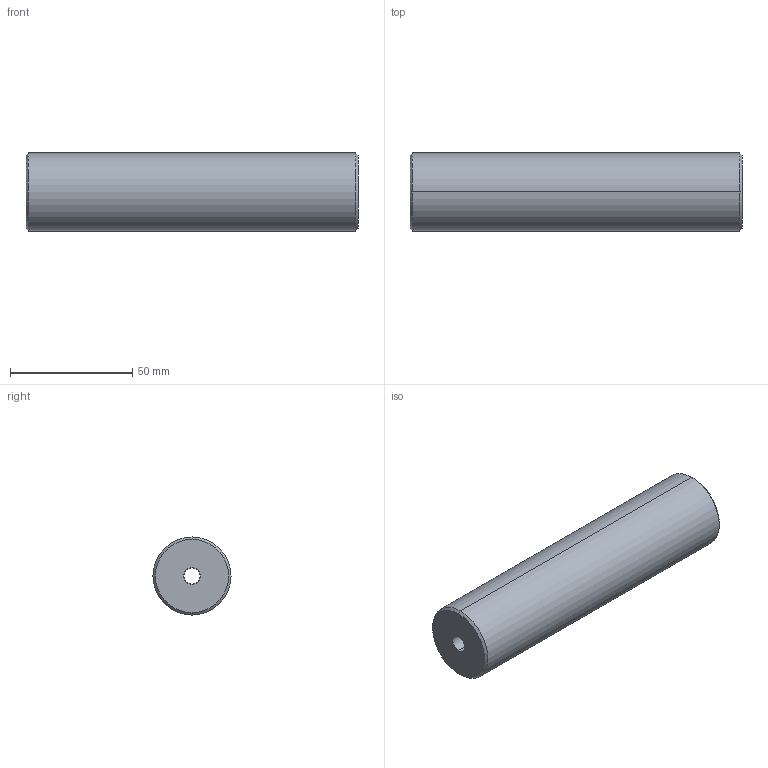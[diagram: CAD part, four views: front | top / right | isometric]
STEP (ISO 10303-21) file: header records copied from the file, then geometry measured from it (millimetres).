
FILE_DESCRIPTION (( 'STEP AP214' ), '1' );
FILE_NAME ('IMC-ES2-32x116.STEP', '2023-01-16T12:55:33', ( '' ), ( '' ), 'SwSTEP 2.0', 'SolidWorks 2019', '' );
FILE_SCHEMA (( 'AUTOMOTIVE_DESIGN' ));
Length unit declared in the file: millimetre
Products named in the file (1): IMC-ES2-32x116
Bounding box: 136 x 32 x 32 mm (x, y, z)
Volume: 104195.5 mm3; surface area: 18011.8 mm2
Topology: 1 solids, 1 shells, 17 faces, 34 edges, 20 vertices
Faces by surface type: cylinder 8, cone 6, plane 3
Entity records: 504 total; most frequent: DIRECTION 90, CARTESIAN_POINT 72, ORIENTED_EDGE 68, AXIS2_PLACEMENT_3D 38, EDGE_CURVE 34, CIRCLE 20, EDGE_LOOP 20, VERTEX_POINT 20
